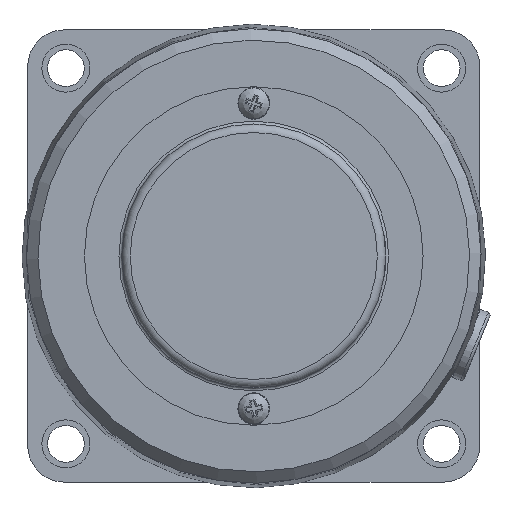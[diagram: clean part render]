
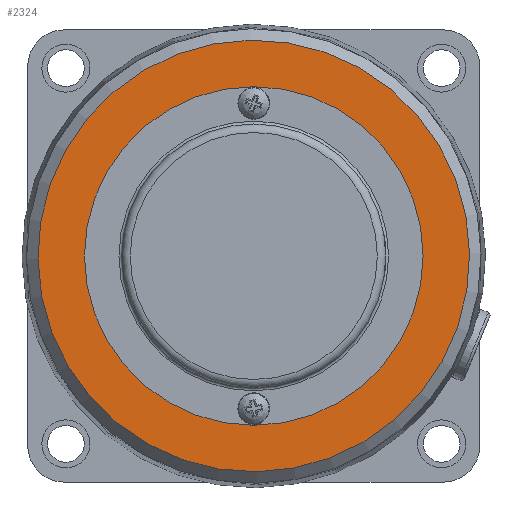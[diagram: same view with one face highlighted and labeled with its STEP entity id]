
A CAD part, left-side view. The second image highlights one B-rep face of the part: STEP entity #2324.
In plain terms, the highlighted planar face has unit normal (-1, 0, 0).
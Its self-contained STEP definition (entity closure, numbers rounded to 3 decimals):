
#99=FACE_BOUND('',#801,.T.);
#141=PLANE('',#2518);
#646=FACE_OUTER_BOUND('',#800,.T.);
#800=EDGE_LOOP('',(#1721));
#801=EDGE_LOOP('',(#1722));
#962=CIRCLE('',#2519,38.18);
#963=CIRCLE('',#2520,29.95);
#1095=VERTEX_POINT('',#3592);
#1096=VERTEX_POINT('',#3594);
#1334=EDGE_CURVE('',#1095,#1095,#962,.T.);
#1335=EDGE_CURVE('',#1096,#1096,#963,.T.);
#1721=ORIENTED_EDGE('',*,*,#1334,.F.);
#1722=ORIENTED_EDGE('',*,*,#1335,.F.);
#2324=ADVANCED_FACE('',(#646,#99),#141,.T.);
#2518=AXIS2_PLACEMENT_3D('',#3591,#2864,#2865);
#2519=AXIS2_PLACEMENT_3D('',#3593,#2866,#2867);
#2520=AXIS2_PLACEMENT_3D('',#3595,#2868,#2869);
#2864=DIRECTION('center_axis',(-1.,0.,0.));
#2865=DIRECTION('ref_axis',(0.,-0.012,-1.));
#2866=DIRECTION('center_axis',(1.,0.,0.));
#2867=DIRECTION('ref_axis',(0.,-0.012,-1.));
#2868=DIRECTION('center_axis',(-1.,0.,0.));
#2869=DIRECTION('ref_axis',(0.,0.,-1.));
#3591=CARTESIAN_POINT('Origin',(-39.5,0.,0.));
#3592=CARTESIAN_POINT('',(-39.5,0.476,38.177));
#3593=CARTESIAN_POINT('Origin',(-39.5,0.,0.));
#3594=CARTESIAN_POINT('',(-39.5,0.,-29.95));
#3595=CARTESIAN_POINT('Origin',(-39.5,0.,0.));
